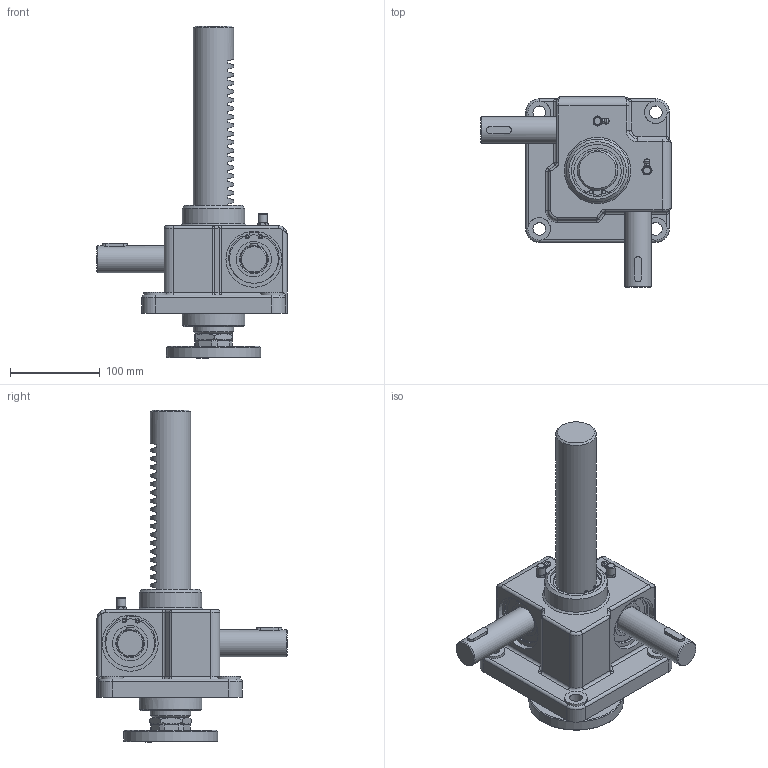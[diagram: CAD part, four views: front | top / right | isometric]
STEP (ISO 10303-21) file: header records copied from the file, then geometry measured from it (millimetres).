
FILE_DESCRIPTION(('STEP AP203'),'1');
FILE_NAME('SP1-5000FU-200ST.stp','2022-06-15T06:32:06',(' '),(' '),'Spatial InterOp 3D',' ',' ');
FILE_SCHEMA(('CONFIG_CONTROL_DESIGN'));
Length unit declared in the file: millimetre
Products named in the file (20): SP1-5000FU-200ST; Rack Gear(SP-5000F); Flange-Part; Flange; Joint; Nut; Body-Part; #607; SnapRing-61Pie; SnapRing-65Pie; Du Bush; Nipple; Key; Shaft(SP1-5000); Gear Box(SP-5000); RJ05-4SCJ-610X600-100ST_CAP; LABEL-B.1; ___; 파트18; __
Assembly tree (26 placements, depth 5):
  SP1-5000FU-200ST
    Rack Gear(SP-5000F)
    Flange-Part
      Flange
      Joint
      Nut
    Body-Part
      #607  x2
      SnapRing-61Pie  x2
      SnapRing-65Pie  x2
      Du Bush  x2
      Nipple  x2
      Key  x2
      Shaft(SP1-5000)  x2
      Gear Box(SP-5000)
    __
      ___
        RJ05-4SCJ-610X600-100ST_CAP
          LABEL-B.1
        파트18
Bounding box: 212 x 212.22 x 370 mm (x, y, z)
Volume: 1807487.1 mm3; surface area: 366651.7 mm2
Topology: 27 solids, 27 shells, 2458 faces, 6764 edges, 4365 vertices
Faces by surface type: plane 1994, cylinder 276, cone 62, sphere 62, torus 50, bspline 10, revolution 4
Full cylindrical faces by diameter (mm): 3.42 x4, 3.642 x4, 5.6 x2, 8 x2, 9.886 x2, 14 x8, 24 x2, 25 x4, 28 x1, 30 x6, 32 x1, 34 x2, 39.2 x4, 44 x1, 45 x4, 50 x1, 54 x1, 54.4 x4, 55 x5, 58 x2, 60 x2, 61 x2, 62 x4, 62.4 x2, 65 x2, 70 x2, 105 x1
Entity records: 75500 total; most frequent: CARTESIAN_POINT 15289, ORIENTED_EDGE 12526, DIRECTION 11588, EDGE_CURVE 6263, LINE 5392, VECTOR 5392, VERTEX_POINT 4130, AXIS2_PLACEMENT_3D 3097
